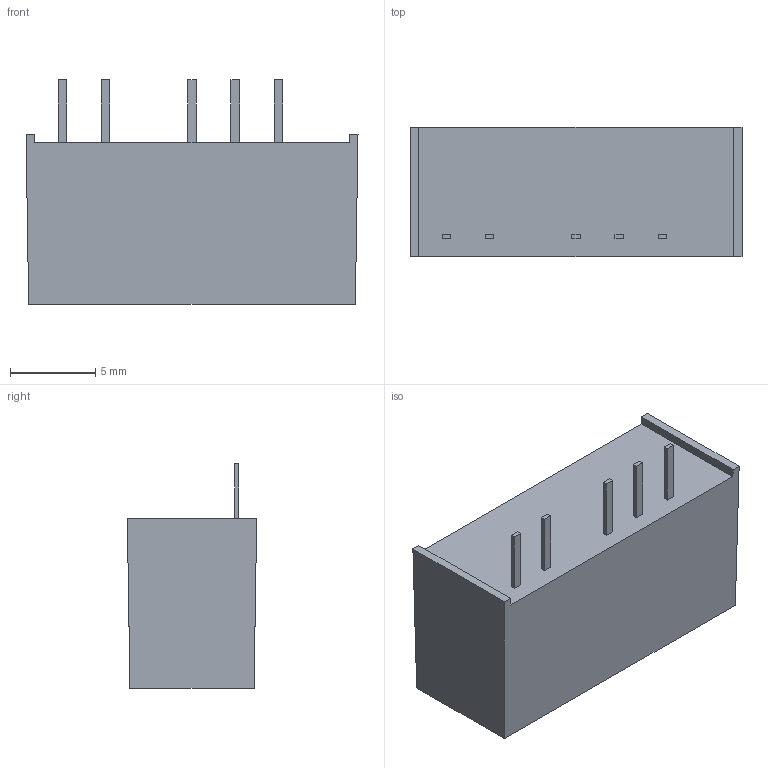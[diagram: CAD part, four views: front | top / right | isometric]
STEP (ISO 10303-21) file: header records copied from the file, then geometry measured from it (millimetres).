
FILE_DESCRIPTION(/* description */ (''),/* implementation_level */ '2;1');
FILE_NAME(/* name */ 'C:\Users\CALLIOPE\Documents\Inventor\mau100.200\3D\X2\5C3A5BF8591689C0\X0\\型錄用-STEP檔\MAU300+MA03.stp',/* time_stamp */ '2015-03-13T08:28:22+08:00',/* author */ ('CALLIOPE'),/* organization */ (''),/* preprocessor_version */ 'ST-DEVELOPER v15.6',/* originating_system */ 'Autodesk Inventor 2015',/* authorisation */ '');
FILE_SCHEMA (('AUTOMOTIVE_DESIGN { 1 0 10303 214 3 1 1 }'));
Length unit declared in the file: millimetre
Products named in the file (1): MAU300+MA03
Bounding box: 19.5 x 7.6 x 13.2 mm (x, y, z)
Volume: 1371.9 mm3; surface area: 840.2 mm2
Topology: 1 solids, 1 shells, 35 faces, 84 edges, 56 vertices
Faces by surface type: plane 35
Entity records: 1022 total; most frequent: CARTESIAN_POINT 176, ORIENTED_EDGE 168, DIRECTION 156, LINE 84, VECTOR 84, EDGE_CURVE 84, VERTEX_POINT 56, EDGE_LOOP 40
